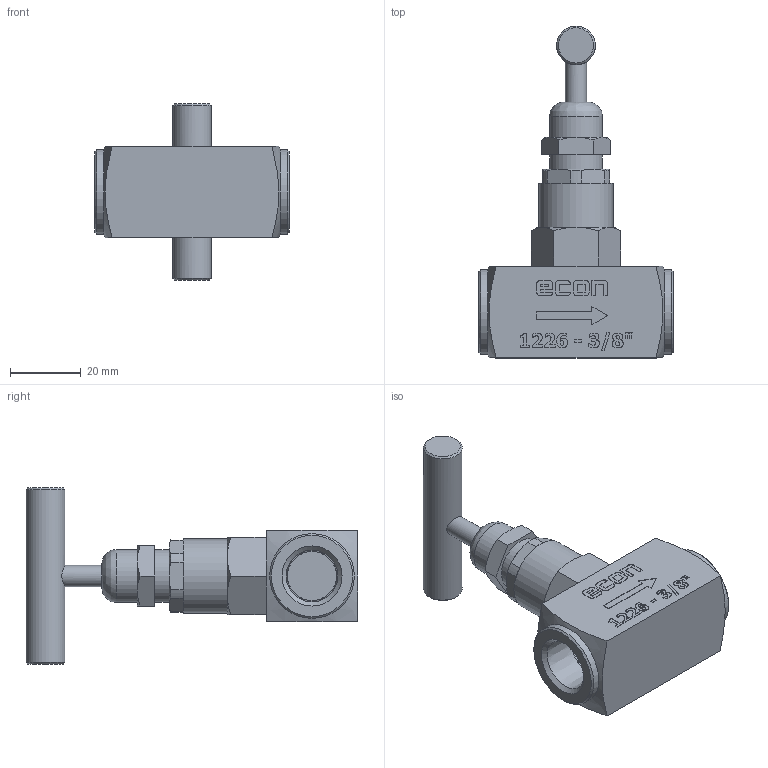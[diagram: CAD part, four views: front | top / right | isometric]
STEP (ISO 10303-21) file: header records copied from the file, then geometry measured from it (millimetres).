
FILE_DESCRIPTION(/* description */ ('Eriks item no: 11812065'),/* implementation_level */ '2;1');
FILE_NAME(/* name */ '1226-010-PN400.stp',/* time_stamp */ '2024-02-15T11:38:22+01:00',/* author */ ('roger.thijssen'),/* organization */ (''),/* preprocessor_version */ 'ST-DEVELOPER v19.2',/* originating_system */ 'Autodesk Inventor 2024',/* authorisation */ '');
FILE_SCHEMA (('AUTOMOTIVE_DESIGN { 1 0 10303 214 3 1 1 }'));
Length unit declared in the file: millimetre
Products named in the file (1): Needle valve, 1226-010-PN400
Bounding box: 55 x 94 x 50 mm (x, y, z)
Volume: 50479.2 mm3; surface area: 12742.4 mm2
Topology: 1 solids, 1 shells, 288 faces, 739 edges, 485 vertices
Faces by surface type: plane 149, bspline 83, cylinder 28, cone 28
Full cylindrical faces by diameter (mm): 6 x1, 10.719 x1, 11 x1, 13.889 x1, 15 x2, 21 x1, 24 x2
Entity records: 9935 total; most frequent: CARTESIAN_POINT 3203, ORIENTED_EDGE 1478, DIRECTION 1027, EDGE_CURVE 739, VERTEX_POINT 485, LINE 439, VECTOR 439, EDGE_LOOP 320
